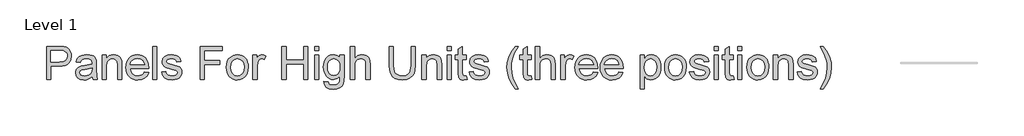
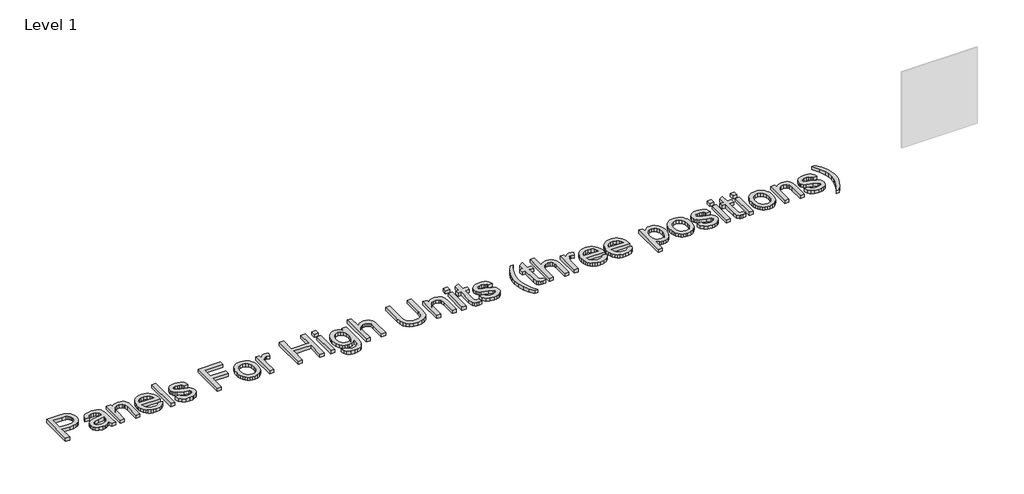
# One storey, part 4 of 5: 1 proxy.
"""IFC4 building model written with IfcOpenShell, lengths in millimetres."""

from ifc_helpers import new_model, si_unit, origin, origin_with_axes, place, context, project, spatial, polyline, outline, extrude, element, save

model = new_model("IFC4")

# Units and contexts
model_context = context("Model", 3, world=origin())
ifc_project = project(units=[si_unit("LENGTHUNIT", "METRE", prefix="MILLI")], contexts=[model_context])

# Site, building, storey
site = spatial("IfcSite", under=ifc_project)
building = spatial("IfcBuilding", under=site)
storey = spatial("IfcBuildingStorey", under=building, Name="Level 1", Elevation=0.0)

# Proxy
placement = place(None, origin())
element("IfcBuildingElementProxy", 1, Name="24\" Arial", ObjectType="24\" Arial", at=placement, inside=storey, context=model_context, shape_type="SweptSolid", body=[
    extrude(outline(polyline([(-20171.3215014, 6218.7041316), (-20171.3215014, 6468.7964393), (-20078.6359244, 6468.7964393), (-20041.2686167, 6466.4151893), (-20024.6074989, 6461.96561), (-20010.8924148, 6454.7226412), (-19999.8486047, 6444.358098), (-19991.201309, 6430.5437951), (-19985.6145302, 6414.2490234), (-19983.7522706, 6396.4430739), (-19988.781898, 6366.967473), (-20003.8707802, 6342.4070162), (-20015.9544791, 6332.7370042), (-20032.0870663, 6325.8298528), (-20052.2685416, 6321.6855619), (-20076.4989052, 6320.3041316), (-20140.0599629, 6320.3041316), (-20140.0599629, 6218.7041316), (-20171.3215014, 6218.7041316)]), holes=[polyline([(-20140.0599629, 6351.5656701), (-20074.6671744, 6351.5656701), (-20046.9469821, 6354.4353816), (-20028.6296744, 6363.0445162), (-20018.4177754, 6376.8588191), (-20015.013809, 6395.3440355), (-20017.0210807, 6409.3873047), (-20023.0428956, 6421.232497), (-20032.331297, 6430.1469201), (-20044.1383283, 6435.3978816), (-20075.3998667, 6437.5349008), (-20140.0599629, 6437.5349008), (-20140.0599629, 6351.5656701)])]), origin_with_axes(), (0.0, 0.0, 1.0), 25.4),
    extrude(outline(polyline([(-19827.4445783, 6242.1502855), (-19842.3808163, 6229.3434345), (-19857.7597225, 6220.9632662), (-19873.9323788, 6216.338146), (-19891.2498667, 6214.7964393), (-19917.3749268, 6218.5056941), (-19936.646261, 6229.6334585), (-19948.5296143, 6246.5311749), (-19952.4907321, 6267.5502855), (-19950.9948187, 6280.5097807), (-19946.5070783, 6292.2786508), (-19930.7847225, 6310.2296124), (-19908.8955398, 6320.4873047), (-19881.8469821, 6325.188747), (-19827.6277514, 6335.9349008), (-19827.4445783, 6342.8954778), (-19829.5968619, 6356.8471605), (-19836.0537129, 6365.9752855), (-19850.4938571, 6372.7526893), (-19870.6123667, 6375.0118239), (-19889.2349629, 6373.5082783), (-19902.2402514, 6368.9976412), (-19911.1088812, 6360.655634), (-19917.3215014, 6347.6579778), (-19948.5830398, 6351.5656701), (-19943.1565374, 6368.6618239), (-19935.058761, 6382.0945162), (-19923.5341215, 6392.367473), (-19907.8270302, 6399.9844201), (-19888.6167538, 6404.7011268), (-19866.582559, 6406.2733624), (-19845.4489653, 6404.8842999), (-19828.696261, 6400.7171124), (-19816.0649509, 6394.4510667), (-19807.2955398, 6386.7654297), (-19797.7094821, 6365.5478816), (-19796.1830398, 6338.1940355), (-19796.1830398, 6299.3002855), (-19794.5955398, 6244.9894682), (-19788.3676552, 6218.7041316), (-19819.6291937, 6218.7041316), (-19827.4445783, 6242.1502855)]), holes=[polyline([(-19827.4445783, 6304.6733624), (-19877.8782321, 6295.0873047), (-19904.7741456, 6290.0195162), (-19916.9551552, 6281.7767278), (-19921.2291937, 6269.7483624), (-19918.9013691, 6260.4523287), (-19911.9178956, 6252.8353816), (-19900.4314172, 6247.7523287), (-19884.5945783, 6246.0579778), (-19867.8037129, 6247.9278696), (-19852.9666937, 6253.5375451), (-19840.9383283, 6261.8032302), (-19832.5734244, 6271.6411508), (-19828.8641696, 6281.7767278), (-19827.6277514, 6295.819997), (-19827.4445783, 6304.6733624)])]), origin_with_axes(), (0.0, 0.0, 1.0), 25.4),
    extrude(outline(polyline([(-19753.1984244, 6218.7041316), (-19753.1984244, 6402.3656701), (-19721.936886, 6402.3656701), (-19721.936886, 6376.7214393), (-19711.0762489, 6389.6504057), (-19698.0327994, 6398.8853816), (-19682.8065374, 6404.4263672), (-19665.3974629, 6406.2733624), (-19635.8760687, 6400.3202374), (-19624.1071985, 6393.4359826), (-19615.7270302, 6384.6894682), (-19606.3546744, 6361.701247), (-19604.7061167, 6331.4776893), (-19604.7061167, 6218.7041316), (-19635.9676552, 6218.7041316), (-19635.9676552, 6327.2647085), (-19639.570059, 6354.9238432), (-19644.5538932, 6363.1589994), (-19652.3005879, 6369.5471605), (-19673.7623667, 6375.0118239), (-19692.0720422, 6371.9436749), (-19707.6799148, 6362.7392278), (-19718.3726432, 6344.9561749), (-19721.936886, 6316.1522085), (-19721.936886, 6218.7041316), (-19753.1984244, 6218.7041316)])), origin_with_axes(), (0.0, 0.0, 1.0), 25.4),
    extrude(outline(polyline([(-19433.1340014, 6273.4118239), (-19402.4830398, 6269.5041316), (-19413.5268499, 6246.4090595), (-19431.1496264, 6229.144997), (-19454.9544941, 6218.3835787), (-19484.5445783, 6214.7964393), (-19503.9418439, 6216.3438702), (-19521.2249869, 6220.9861629), (-19536.3940074, 6228.7233173), (-19549.4489052, 6239.5553335), (-19559.9470122, 6253.1807392), (-19567.44566, 6269.2980619), (-19571.9448487, 6287.9073017), (-19573.4445783, 6309.0084585), (-19571.9295843, 6330.8251352), (-19567.3846023, 6350.0544922), (-19559.8096324, 6366.6965295), (-19549.2046744, 6380.751247), (-19536.1841215, 6391.9171725), (-19521.3623667, 6399.8928335), (-19504.73941, 6404.6782302), (-19486.3152514, 6406.2733624), (-19468.4844971, 6404.6820463), (-19452.3595422, 6399.908098), (-19437.9403866, 6391.9515174), (-19425.2270302, 6380.8123047), (-19414.8491306, 6366.788116), (-19407.4363451, 6350.1766076), (-19402.9886738, 6330.9777795), (-19401.5061167, 6309.1916316), (-19401.6892898, 6300.7656701), (-19542.1830398, 6300.7656701), (-19536.7718018, 6277.3653095), (-19524.2015494, 6260.1623047), (-19506.0597826, 6249.5840595), (-19483.9340014, 6246.0579778), (-19467.2957802, 6247.691271), (-19453.2830398, 6252.5911508), (-19441.8957802, 6261.0629057), (-19433.1340014, 6273.4118239)]), holes=[polyline([(-19542.1830398, 6332.0272085), (-19432.7676552, 6332.0272085), (-19436.9959004, 6348.5433143), (-19445.2844821, 6360.3579778), (-19463.5102033, 6371.3483624), (-19486.4373667, 6375.0118239), (-19507.5099028, 6372.0886869), (-19524.9342417, 6363.3192758), (-19537.0465614, 6349.649985), (-19542.1830398, 6332.0272085)])]), origin_with_axes(), (0.0, 0.0, 1.0), 25.4),
    extrude(outline(polyline([(-19370.2445783, 6218.7041316), (-19370.2445783, 6468.7964393), (-19338.9830398, 6468.7964393), (-19338.9830398, 6218.7041316), (-19370.2445783, 6218.7041316)])), origin_with_axes(), (0.0, 0.0, 1.0), 25.4),
    extrude(outline(polyline([(-19303.813809, 6273.4118239), (-19272.5522706, 6277.3195162), (-19267.6218619, 6263.9478816), (-19258.0815975, 6254.1175932), (-19243.8704196, 6248.0728816), (-19224.9272706, 6246.0579778), (-19206.2130879, 6247.904973), (-19193.0551552, 6253.4459585), (-19185.2702994, 6261.4750451), (-19182.6753475, 6270.7863432), (-19185.2855639, 6278.754372), (-19193.1162129, 6284.8296124), (-19225.2936167, 6293.7440355), (-19272.3690975, 6309.0389874), (-19284.2829797, 6316.7246244), (-19292.915011, 6326.8983624), (-19298.1583403, 6338.9114633), (-19299.9061167, 6352.1151893), (-19294.288809, 6375.4086989), (-19278.9633283, 6393.2070162), (-19259.0890494, 6402.4572566), (-19232.193136, 6406.2733624), (-19211.84566, 6404.7392879), (-19194.1541937, 6400.1370643), (-19179.9277514, 6392.9169922), (-19169.9753475, 6383.529372), (-19163.3811167, 6371.2796725), (-19159.2291937, 6355.4733624), (-19190.4907321, 6351.5656701), (-19194.4365855, 6361.4035908), (-19202.2443379, 6368.8144682), (-19213.9903114, 6373.462485), (-19229.7508283, 6375.0118239), (-19247.7017898, 6373.5311749), (-19259.6690975, 6369.0892278), (-19266.4007081, 6362.6781701), (-19268.6445783, 6355.2901893), (-19264.920059, 6346.1925932), (-19253.2580398, 6339.2930739), (-19226.3315975, 6332.6377855), (-19180.4467417, 6317.9228816), (-19168.3267898, 6310.8859826), (-19159.1376071, 6301.2541316), (-19153.3447586, 6288.9967999), (-19151.413809, 6274.0834585), (-19153.6805759, 6258.6663912), (-19160.4808764, 6244.1651893), (-19171.5552153, 6231.7170523), (-19186.6440975, 6222.4591797), (-19204.8698187, 6216.7121244), (-19225.3546744, 6214.7964393), (-19256.8757081, 6218.4904297), (-19279.8791937, 6229.5724008), (-19295.2352033, 6247.9202374), (-19303.813809, 6273.4118239)])), origin_with_axes(), (0.0, 0.0, 1.0), 25.4),
    extrude(outline(polyline([(-19014.6445783, 6218.7041316), (-19014.6445783, 6468.7964393), (-18846.613809, 6468.7964393), (-18846.613809, 6437.5349008), (-18983.3830398, 6437.5349008), (-18983.3830398, 6363.288747), (-18866.1522706, 6363.288747), (-18866.1522706, 6332.0272085), (-18983.3830398, 6332.0272085), (-18983.3830398, 6218.7041316), (-19014.6445783, 6218.7041316)])), origin_with_axes(), (0.0, 0.0, 1.0), 25.4),
    extrude(outline(polyline([(-18815.3522706, 6310.5349008), (-18813.6617357, 6334.3206881), (-18808.5901312, 6354.8169922), (-18800.1374569, 6372.0238131), (-18788.3037129, 6385.9411508), (-18763.2395302, 6401.1903095), (-18733.2296744, 6406.2733624), (-18715.9827844, 6404.7259315), (-18700.3882682, 6400.0836388), (-18686.4461258, 6392.3464844), (-18674.1563571, 6381.5144682), (-18664.1257231, 6367.9539363), (-18656.9609845, 6352.031235), (-18652.6621414, 6333.7463642), (-18651.2291937, 6313.0993239), (-18653.7630879, 6281.5172326), (-18661.3647706, 6257.4757662), (-18673.8129076, 6239.4713792), (-18690.8861648, 6226.0005258), (-18711.1649509, 6217.5974609), (-18733.2296744, 6214.7964393), (-18750.7284274, 6216.338146), (-18766.4679557, 6220.9632662), (-18780.4482592, 6228.6717999), (-18792.6693379, 6239.463747), (-18802.5931209, 6253.1559345), (-18809.6815374, 6269.5651893), (-18813.9345873, 6288.6915114), (-18815.3522706, 6310.5349008)]), holes=[polyline([(-18784.0907321, 6310.5959585), (-18780.4730639, 6282.3033504), (-18769.620059, 6262.1466797), (-18753.2871264, 6250.0801533), (-18733.2296744, 6246.0579778), (-18713.263809, 6250.1030499), (-18696.9614052, 6262.2382662), (-18686.1084004, 6282.6620643), (-18682.4907321, 6311.5728816), (-18686.131297, 6339.0412109), (-18697.0529917, 6358.923122), (-18713.3782922, 6370.9896484), (-18733.2296744, 6375.0118239), (-18753.2871264, 6371.0049129), (-18769.620059, 6358.9841797), (-18780.4730639, 6338.8733023), (-18784.0907321, 6310.5959585)])]), origin_with_axes(), (0.0, 0.0, 1.0), 25.4),
    extrude(outline(polyline([(-18616.0599629, 6218.7041316), (-18616.0599629, 6402.3656701), (-18588.7061167, 6402.3656701), (-18588.7061167, 6375.194997), (-18578.6010687, 6390.9478816), (-18569.2897706, 6400.2286508), (-18549.751309, 6406.2733624), (-18534.1815975, 6403.8615835), (-18518.3676552, 6396.626247), (-18528.8085206, 6368.6007662), (-18550.7892898, 6375.0118239), (-18560.1234845, 6373.4701172), (-18568.4654917, 6368.844997), (-18579.730636, 6351.7488432), (-18584.7984244, 6315.2363432), (-18584.7984244, 6218.7041316), (-18616.0599629, 6218.7041316)])), origin_with_axes(), (0.0, 0.0, 1.0), 25.4),
    extrude(outline(polyline([(-18397.2291937, 6218.7041316), (-18397.2291937, 6468.7964393), (-18365.9676552, 6468.7964393), (-18365.9676552, 6367.1964393), (-18233.1061167, 6367.1964393), (-18233.1061167, 6468.7964393), (-18201.8445783, 6468.7964393), (-18201.8445783, 6218.7041316), (-18233.1061167, 6218.7041316), (-18233.1061167, 6335.9349008), (-18365.9676552, 6335.9349008), (-18365.9676552, 6218.7041316), (-18397.2291937, 6218.7041316)])), origin_with_axes(), (0.0, 0.0, 1.0), 25.4),
    extrude(outline(polyline([(-18151.0445783, 6437.5349008), (-18151.0445783, 6468.7964393), (-18119.7830398, 6468.7964393), (-18119.7830398, 6437.5349008), (-18151.0445783, 6437.5349008)])), origin_with_axes(), (0.0, 0.0, 1.0), 25.4),
    extrude(outline(polyline([(-18151.0445783, 6218.7041316), (-18151.0445783, 6402.3656701), (-18119.7830398, 6402.3656701), (-18119.7830398, 6218.7041316), (-18151.0445783, 6218.7041316)])), origin_with_axes(), (0.0, 0.0, 1.0), 25.4),
    extrude(outline(polyline([(-18080.7061167, 6203.0733624), (-18049.4445783, 6199.1656701), (-18045.9948187, 6189.3964393), (-18039.3090014, 6182.6800932), (-18026.1663331, 6177.4596605), (-18008.9633283, 6175.7195162), (-17990.6154917, 6177.6886268), (-17976.9690975, 6183.5959585), (-17967.5051552, 6193.0599008), (-17961.7046744, 6205.6988432), (-17959.5676552, 6242.1502855), (-17981.5789533, 6224.5656701), (-18008.413809, 6218.7041316), (-18025.5538481, 6220.4099309), (-18040.6446384, 6225.5273287), (-18053.6861798, 6234.0563251), (-18064.6784725, 6245.9969201), (-18079.6299749, 6276.0067758), (-18084.613809, 6311.4507662), (-18082.3775711, 6336.6904898), (-18075.6688571, 6359.9000451), (-18064.7242658, 6379.5682542), (-18049.7803956, 6394.1839393), (-18031.3486047, 6403.2510066), (-18009.9402514, 6406.2733624), (-17995.3207501, 6404.563747), (-17982.0521504, 6399.4349008), (-17970.1344521, 6390.8868239), (-17959.5676552, 6378.9195162), (-17959.5676552, 6402.3656701), (-17928.3061167, 6402.3656701), (-17928.3061167, 6243.7988432), (-17930.443136, 6207.1871244), (-17936.8541937, 6183.0769682), (-17947.8980038, 6167.087485), (-17963.9332802, 6154.8377855), (-17984.6089413, 6147.0529297), (-18009.5739052, 6144.4579778), (-18038.6602634, 6148.1138071), (-18061.5645302, 6159.0812951), (-18076.2565374, 6177.3909706), (-18080.7061167, 6203.0733624)]), holes=[polyline([(-18053.3522706, 6313.5877855), (-18050.0169941, 6284.9135667), (-18040.0111648, 6265.1995643), (-18024.9680759, 6253.7741436), (-18006.5210206, 6249.9656701), (-17988.2113451, 6253.751247), (-17973.091934, 6265.1079778), (-17962.9487249, 6284.5701172), (-17959.5676552, 6312.6719201), (-17963.0479437, 6339.7739033), (-17973.488809, 6359.2894682), (-17988.8295542, 6371.081235), (-18007.0094821, 6375.0118239), (-18024.8612249, 6371.1422927), (-18039.8279917, 6359.5336989), (-18049.9712009, 6340.3081581), (-18053.3522706, 6313.5877855)])]), origin_with_axes(), (0.0, 0.0, 1.0), 25.4),
    extrude(outline(polyline([(-17881.413809, 6218.7041316), (-17881.413809, 6468.7964393), (-17850.1522706, 6468.7964393), (-17850.1522706, 6376.8435547), (-17838.6696083, 6389.7190956), (-17825.7749869, 6398.9159105), (-17811.4684064, 6404.4339994), (-17795.7498667, 6406.2733624), (-17776.8677754, 6404.2660908), (-17760.6416937, 6398.2442758), (-17747.8653715, 6388.6811148), (-17739.332559, 6376.0498047), (-17734.5242658, 6358.6941557), (-17732.9215014, 6334.9579778), (-17732.9215014, 6218.7041316), (-17764.1830398, 6218.7041316), (-17764.1830398, 6331.7219201), (-17766.6711408, 6351.2909105), (-17774.1354437, 6364.6930739), (-17786.163809, 6372.4321364), (-17802.3440975, 6375.0118239), (-17815.5554557, 6373.2716797), (-17827.9577994, 6368.051247), (-17838.2307562, 6359.8542518), (-17845.0539533, 6349.1844201), (-17848.8776913, 6335.003771), (-17850.1522706, 6316.2743239), (-17850.1522706, 6218.7041316), (-17881.413809, 6218.7041316)])), origin_with_axes(), (0.0, 0.0, 1.0), 25.4),
    extrude(outline(polyline([(-17424.213809, 6468.7964393), (-17392.9522706, 6468.7964393), (-17392.9522706, 6324.5171124), (-17395.0740254, 6290.7293119), (-17401.4392898, 6264.7111028), (-17413.3302754, 6244.6383864), (-17432.0291937, 6228.6870643), (-17457.5818379, 6218.2690956), (-17490.0340014, 6214.7964393), (-17521.7763691, 6217.8187951), (-17547.1534725, 6226.8858624), (-17566.1729437, 6241.6847206), (-17578.8424148, 6261.9024489), (-17585.9632682, 6289.0196965), (-17588.336886, 6324.5171124), (-17588.336886, 6468.7964393), (-17557.0753475, 6468.7964393), (-17557.0753475, 6325.6161508), (-17555.5336408, 6297.5219802), (-17550.9085206, 6277.960622), (-17542.5283523, 6264.4134465), (-17529.7215014, 6254.3618239), (-17513.0222225, 6248.1339393), (-17492.9647706, 6246.0579778), (-17461.1689773, 6250.1641076), (-17440.0277514, 6262.482497), (-17433.1091516, 6272.5875451), (-17428.1672946, 6286.4781701), (-17424.213809, 6325.6161508), (-17424.213809, 6468.7964393)])), origin_with_axes(), (0.0, 0.0, 1.0), 25.4),
    extrude(outline(polyline([(-17342.1522706, 6218.7041316), (-17342.1522706, 6402.3656701), (-17310.8907321, 6402.3656701), (-17310.8907321, 6376.7214393), (-17300.0300951, 6389.6504057), (-17286.9866456, 6398.8853816), (-17271.7603836, 6404.4263672), (-17254.351309, 6406.2733624), (-17224.8299148, 6400.3202374), (-17213.0610446, 6393.4359826), (-17204.6808764, 6384.6894682), (-17195.3085206, 6361.701247), (-17193.6599629, 6331.4776893), (-17193.6599629, 6218.7041316), (-17224.9215014, 6218.7041316), (-17224.9215014, 6327.2647085), (-17228.5239052, 6354.9238432), (-17233.5077393, 6363.1589994), (-17241.254434, 6369.5471605), (-17262.7162129, 6375.0118239), (-17281.0258884, 6371.9436749), (-17296.633761, 6362.7392278), (-17307.3264893, 6344.9561749), (-17310.8907321, 6316.1522085), (-17310.8907321, 6218.7041316), (-17342.1522706, 6218.7041316)])), origin_with_axes(), (0.0, 0.0, 1.0), 25.4),
    extrude(outline(polyline([(-17150.6753475, 6218.7041316), (-17150.6753475, 6402.3656701), (-17119.413809, 6402.3656701), (-17119.413809, 6218.7041316), (-17150.6753475, 6218.7041316)])), origin_with_axes(), (0.0, 0.0, 1.0), 25.4),
    extrude(outline(polyline([(-17150.6753475, 6437.5349008), (-17150.6753475, 6468.7964393), (-17119.413809, 6468.7964393), (-17119.413809, 6437.5349008), (-17150.6753475, 6437.5349008)])), origin_with_axes(), (0.0, 0.0, 1.0), 25.4),
    extrude(outline(polyline([(-17006.0907321, 6244.7757662), (-17002.1830398, 6217.7882662), (-17025.568136, 6214.7964393), (-17040.5730639, 6216.0939153), (-17051.761886, 6219.9863432), (-17064.8282321, 6233.6022085), (-17068.613809, 6269.0767278), (-17068.613809, 6371.1041316), (-17092.0599629, 6371.1041316), (-17092.0599629, 6402.3656701), (-17068.613809, 6402.3656701), (-17068.613809, 6446.9988432), (-17037.3522706, 6465.3772085), (-17037.3522706, 6402.3656701), (-17006.0907321, 6402.3656701), (-17006.0907321, 6371.1041316), (-17037.3522706, 6371.1041316), (-17037.3522706, 6269.9925932), (-17035.7037129, 6253.8733624), (-17030.3611648, 6248.1644682), (-17019.7065975, 6246.0579778), (-17006.0907321, 6244.7757662)])), origin_with_axes(), (0.0, 0.0, 1.0), 25.4),
    extrude(outline(polyline([(-16986.5522706, 6273.4118239), (-16955.2907321, 6277.3195162), (-16950.3603235, 6263.9478816), (-16940.820059, 6254.1175932), (-16926.6088812, 6248.0728816), (-16907.6657321, 6246.0579778), (-16888.9515494, 6247.904973), (-16875.7936167, 6253.4459585), (-16868.008761, 6261.4750451), (-16865.413809, 6270.7863432), (-16868.0240254, 6278.754372), (-16875.8546744, 6284.8296124), (-16908.0320783, 6293.7440355), (-16955.107559, 6309.0389874), (-16967.0214413, 6316.7246244), (-16975.6534725, 6326.8983624), (-16980.8968018, 6338.9114633), (-16982.6445783, 6352.1151893), (-16977.0272706, 6375.4086989), (-16961.7017898, 6393.2070162), (-16941.827511, 6402.4572566), (-16914.9315975, 6406.2733624), (-16894.5841215, 6404.7392879), (-16876.8926552, 6400.1370643), (-16862.6662129, 6392.9169922), (-16852.713809, 6383.529372), (-16846.1195783, 6371.2796725), (-16841.9676552, 6355.4733624), (-16873.2291937, 6351.5656701), (-16877.175047, 6361.4035908), (-16884.9827994, 6368.8144682), (-16896.728773, 6373.462485), (-16912.4892898, 6375.0118239), (-16930.4402514, 6373.5311749), (-16942.407559, 6369.0892278), (-16949.1391696, 6362.6781701), (-16951.3830398, 6355.2901893), (-16947.6585206, 6346.1925932), (-16935.9965014, 6339.2930739), (-16909.070059, 6332.6377855), (-16863.1852033, 6317.9228816), (-16851.0652514, 6310.8859826), (-16841.8760687, 6301.2541316), (-16836.0832201, 6288.9967999), (-16834.1522706, 6274.0834585), (-16836.4190374, 6258.6663912), (-16843.2193379, 6244.1651893), (-16854.2936768, 6231.7170523), (-16869.382559, 6222.4591797), (-16887.6082802, 6216.7121244), (-16908.093136, 6214.7964393), (-16939.6141696, 6218.4904297), (-16962.6176552, 6229.5724008), (-16977.9736648, 6247.9202374), (-16986.5522706, 6273.4118239)])), origin_with_axes(), (0.0, 0.0, 1.0), 25.4),
    extrude(outline(polyline([(-16638.7676552, 6148.3656701), (-16662.9922946, 6182.3595403), (-16683.1565975, 6221.6959585), (-16696.7571985, 6264.466872), (-16701.2907321, 6308.7642278), (-16697.9020302, 6347.6121845), (-16687.7359244, 6384.7810547), (-16667.5563571, 6426.8803335), (-16638.7676552, 6468.7964393), (-16615.3215014, 6468.7964393), (-16644.568136, 6419.2786508), (-16662.1527514, 6371.2873047), (-16668.0600831, 6340.0105018), (-16670.0291937, 6308.5810547), (-16666.6099629, 6268.5043119), (-16656.3522706, 6228.4428335), (-16639.2561167, 6188.3966196), (-16615.3215014, 6148.3656701), (-16638.7676552, 6148.3656701)])), origin_with_axes(), (0.0, 0.0, 1.0), 25.4),
    extrude(outline(polyline([(-16517.6291937, 6244.7757662), (-16513.7215014, 6217.7882662), (-16537.1065975, 6214.7964393), (-16552.1115254, 6216.0939153), (-16563.3003475, 6219.9863432), (-16576.3666937, 6233.6022085), (-16580.1522706, 6269.0767278), (-16580.1522706, 6371.1041316), (-16603.5984244, 6371.1041316), (-16603.5984244, 6402.3656701), (-16580.1522706, 6402.3656701), (-16580.1522706, 6446.9988432), (-16548.8907321, 6465.3772085), (-16548.8907321, 6402.3656701), (-16517.6291937, 6402.3656701), (-16517.6291937, 6371.1041316), (-16548.8907321, 6371.1041316), (-16548.8907321, 6269.9925932), (-16547.2421744, 6253.8733624), (-16541.8996264, 6248.1644682), (-16531.245059, 6246.0579778), (-16517.6291937, 6244.7757662)])), origin_with_axes(), (0.0, 0.0, 1.0), 25.4),
    extrude(outline(polyline([(-16486.3676552, 6218.7041316), (-16486.3676552, 6468.7964393), (-16455.1061167, 6468.7964393), (-16455.1061167, 6376.8435547), (-16443.6234545, 6389.7190956), (-16430.7288331, 6398.9159105), (-16416.4222526, 6404.4339994), (-16400.7037129, 6406.2733624), (-16381.8216215, 6404.2660908), (-16365.5955398, 6398.2442758), (-16352.8192177, 6388.6811148), (-16344.2864052, 6376.0498047), (-16339.4781119, 6358.6941557), (-16337.8753475, 6334.9579778), (-16337.8753475, 6218.7041316), (-16369.136886, 6218.7041316), (-16369.136886, 6331.7219201), (-16371.6249869, 6351.2909105), (-16379.0892898, 6364.6930739), (-16391.1176552, 6372.4321364), (-16407.2979437, 6375.0118239), (-16420.5093018, 6373.2716797), (-16432.9116456, 6368.051247), (-16443.1846023, 6359.8542518), (-16450.0077994, 6349.1844201), (-16453.8315374, 6335.003771), (-16455.1061167, 6316.2743239), (-16455.1061167, 6218.7041316), (-16486.3676552, 6218.7041316)])), origin_with_axes(), (0.0, 0.0, 1.0), 25.4),
    extrude(outline(polyline([(-16294.8907321, 6218.7041316), (-16294.8907321, 6402.3656701), (-16267.536886, 6402.3656701), (-16267.536886, 6375.194997), (-16257.4318379, 6390.9478816), (-16248.1205398, 6400.2286508), (-16228.5820783, 6406.2733624), (-16213.0123667, 6403.8615835), (-16197.1984244, 6396.626247), (-16207.6392898, 6368.6007662), (-16229.620059, 6375.0118239), (-16238.9542538, 6373.4701172), (-16247.296261, 6368.844997), (-16258.5614052, 6351.7488432), (-16263.6291937, 6315.2363432), (-16263.6291937, 6218.7041316), (-16294.8907321, 6218.7041316)])), origin_with_axes(), (0.0, 0.0, 1.0), 25.4),
    extrude(outline(polyline([(-16049.0724629, 6273.4118239), (-16018.4215014, 6269.5041316), (-16029.4653114, 6246.4090595), (-16047.0880879, 6229.144997), (-16070.8929557, 6218.3835787), (-16100.4830398, 6214.7964393), (-16119.8803054, 6216.3438702), (-16137.1634485, 6220.9861629), (-16152.3324689, 6228.7233173), (-16165.3873667, 6239.5553335), (-16175.8854737, 6253.1807392), (-16183.3841215, 6269.2980619), (-16187.8833102, 6287.9073017), (-16189.3830398, 6309.0084585), (-16187.8680458, 6330.8251352), (-16183.3230639, 6350.0544922), (-16175.7480939, 6366.6965295), (-16165.143136, 6380.751247), (-16152.1225831, 6391.9171725), (-16137.3008283, 6399.8928335), (-16120.6778715, 6404.6782302), (-16102.2537129, 6406.2733624), (-16084.4229587, 6404.6820463), (-16068.2980038, 6399.908098), (-16053.8788481, 6391.9515174), (-16041.1654917, 6380.8123047), (-16030.7875921, 6366.788116), (-16023.3748066, 6350.1766076), (-16018.9271354, 6330.9777795), (-16017.4445783, 6309.1916316), (-16017.6277514, 6300.7656701), (-16158.1215014, 6300.7656701), (-16152.7102634, 6277.3653095), (-16140.140011, 6260.1623047), (-16121.9982441, 6249.5840595), (-16099.8724629, 6246.0579778), (-16083.2342417, 6247.691271), (-16069.2215014, 6252.5911508), (-16057.8342417, 6261.0629057), (-16049.0724629, 6273.4118239)]), holes=[polyline([(-16158.1215014, 6332.0272085), (-16048.7061167, 6332.0272085), (-16052.9343619, 6348.5433143), (-16061.2229437, 6360.3579778), (-16079.4486648, 6371.3483624), (-16102.3758283, 6375.0118239), (-16123.4483643, 6372.0886869), (-16140.8727033, 6363.3192758), (-16152.985023, 6349.649985), (-16158.1215014, 6332.0272085)])]), origin_with_axes(), (0.0, 0.0, 1.0), 25.4),
    extrude(outline(polyline([(-15857.5955398, 6273.4118239), (-15826.9445783, 6269.5041316), (-15837.9883884, 6246.4090595), (-15855.6111648, 6229.144997), (-15879.4160326, 6218.3835787), (-15909.0061167, 6214.7964393), (-15928.4033824, 6216.3438702), (-15945.6865254, 6220.9861629), (-15960.8555458, 6228.7233173), (-15973.9104437, 6239.5553335), (-15984.4085506, 6253.1807392), (-15991.9071985, 6269.2980619), (-15996.4063872, 6287.9073017), (-15997.9061167, 6309.0084585), (-15996.3911227, 6330.8251352), (-15991.8461408, 6350.0544922), (-15984.2711708, 6366.6965295), (-15973.6662129, 6380.751247), (-15960.64566, 6391.9171725), (-15945.8239052, 6399.8928335), (-15929.2009485, 6404.6782302), (-15910.7767898, 6406.2733624), (-15892.9460356, 6404.6820463), (-15876.8210807, 6399.908098), (-15862.401925, 6391.9515174), (-15849.6885687, 6380.8123047), (-15839.310669, 6366.788116), (-15831.8978836, 6350.1766076), (-15827.4502123, 6330.9777795), (-15825.9676552, 6309.1916316), (-15826.1508283, 6300.7656701), (-15966.6445783, 6300.7656701), (-15961.2333403, 6277.3653095), (-15948.6630879, 6260.1623047), (-15930.5213211, 6249.5840595), (-15908.3955398, 6246.0579778), (-15891.7573187, 6247.691271), (-15877.7445783, 6252.5911508), (-15866.3573187, 6261.0629057), (-15857.5955398, 6273.4118239)]), holes=[polyline([(-15966.6445783, 6332.0272085), (-15857.2291937, 6332.0272085), (-15861.4574389, 6348.5433143), (-15869.7460206, 6360.3579778), (-15887.9717417, 6371.3483624), (-15910.8989052, 6375.0118239), (-15931.9714413, 6372.0886869), (-15949.3957802, 6363.3192758), (-15961.5080999, 6349.649985), (-15966.6445783, 6332.0272085)])]), origin_with_axes(), (0.0, 0.0, 1.0), 25.4),
    extrude(outline(polyline([(-15697.013809, 6148.3656701), (-15697.013809, 6402.3656701), (-15665.7522706, 6402.3656701), (-15665.7522706, 6371.7147085), (-15655.555636, 6386.8341196), (-15644.1378475, 6397.6336989), (-15630.8272706, 6404.1134465), (-15614.9522706, 6406.2733624), (-15593.8110446, 6403.2510066), (-15575.3258283, 6394.1839393), (-15560.2751071, 6379.6216797), (-15549.4373667, 6360.113747), (-15542.8889292, 6337.0797326), (-15540.7061167, 6311.9392278), (-15543.1713211, 6285.2035908), (-15550.566934, 6261.291872), (-15562.6563571, 6241.4175932), (-15579.2029917, 6226.7942758), (-15598.4743259, 6217.7958984), (-15618.7378475, 6214.7964393), (-15633.1093018, 6216.8037109), (-15645.9390494, 6222.8255258), (-15665.7522706, 6243.1272085), (-15665.7522706, 6148.3656701), (-15697.013809, 6148.3656701)]), holes=[polyline([(-15665.7522706, 6309.0695162), (-15662.3712009, 6281.0440355), (-15652.2279917, 6261.4445162), (-15637.2612249, 6249.9046124), (-15619.4094821, 6246.0579778), (-15601.2677153, 6250.0419922), (-15585.9193379, 6261.9940355), (-15575.4555759, 6282.3109826), (-15571.9676552, 6311.3897085), (-15575.3716215, 6339.2625451), (-15585.5835206, 6359.1368239), (-15600.5273908, 6371.0430739), (-15618.1272706, 6375.0118239), (-15635.7958403, 6370.7912109), (-15651.3121264, 6358.129372), (-15662.1422345, 6337.4231821), (-15665.7522706, 6309.0695162)])]), origin_with_axes(), (0.0, 0.0, 1.0), 25.4),
    extrude(outline(polyline([(-15513.3522706, 6310.5349008), (-15511.6617357, 6334.3206881), (-15506.5901312, 6354.8169922), (-15498.1374569, 6372.0238131), (-15486.3037129, 6385.9411508), (-15461.2395302, 6401.1903095), (-15431.2296744, 6406.2733624), (-15413.9827844, 6404.7259315), (-15398.3882682, 6400.0836388), (-15384.4461258, 6392.3464844), (-15372.1563571, 6381.5144682), (-15362.1257231, 6367.9539363), (-15354.9609845, 6352.031235), (-15350.6621414, 6333.7463642), (-15349.2291937, 6313.0993239), (-15351.7630879, 6281.5172326), (-15359.3647706, 6257.4757662), (-15371.8129076, 6239.4713792), (-15388.8861648, 6226.0005258), (-15409.1649509, 6217.5974609), (-15431.2296744, 6214.7964393), (-15448.7284274, 6216.338146), (-15464.4679557, 6220.9632662), (-15478.4482592, 6228.6717999), (-15490.6693379, 6239.463747), (-15500.5931209, 6253.1559345), (-15507.6815374, 6269.5651893), (-15511.9345873, 6288.6915114), (-15513.3522706, 6310.5349008)]), holes=[polyline([(-15482.0907321, 6310.5959585), (-15478.4730639, 6282.3033504), (-15467.620059, 6262.1466797), (-15451.2871264, 6250.0801533), (-15431.2296744, 6246.0579778), (-15411.263809, 6250.1030499), (-15394.9614052, 6262.2382662), (-15384.1084004, 6282.6620643), (-15380.4907321, 6311.5728816), (-15384.131297, 6339.0412109), (-15395.0529917, 6358.923122), (-15411.3782922, 6370.9896484), (-15431.2296744, 6375.0118239), (-15451.2871264, 6371.0049129), (-15467.620059, 6358.9841797), (-15478.4730639, 6338.8733023), (-15482.0907321, 6310.5959585)])]), origin_with_axes(), (0.0, 0.0, 1.0), 25.4),
    extrude(outline(polyline([(-15325.7830398, 6273.4118239), (-15294.5215014, 6277.3195162), (-15289.5910927, 6263.9478816), (-15280.0508283, 6254.1175932), (-15265.8396504, 6248.0728816), (-15246.8965014, 6246.0579778), (-15228.1823187, 6247.904973), (-15215.024386, 6253.4459585), (-15207.2395302, 6261.4750451), (-15204.6445783, 6270.7863432), (-15207.2547946, 6278.754372), (-15215.0854437, 6284.8296124), (-15247.2628475, 6293.7440355), (-15294.3383283, 6309.0389874), (-15306.2522105, 6316.7246244), (-15314.8842417, 6326.8983624), (-15320.1275711, 6338.9114633), (-15321.8753475, 6352.1151893), (-15316.2580398, 6375.4086989), (-15300.932559, 6393.2070162), (-15281.0582802, 6402.4572566), (-15254.1623667, 6406.2733624), (-15233.8148908, 6404.7392879), (-15216.1234244, 6400.1370643), (-15201.8969821, 6392.9169922), (-15191.9445783, 6383.529372), (-15185.3503475, 6371.2796725), (-15181.1984244, 6355.4733624), (-15212.4599629, 6351.5656701), (-15216.4058163, 6361.4035908), (-15224.2135687, 6368.8144682), (-15235.9595422, 6373.462485), (-15251.720059, 6375.0118239), (-15269.6710206, 6373.5311749), (-15281.6383283, 6369.0892278), (-15288.3699389, 6362.6781701), (-15290.613809, 6355.2901893), (-15286.8892898, 6346.1925932), (-15275.2272706, 6339.2930739), (-15248.3008283, 6332.6377855), (-15202.4159725, 6317.9228816), (-15190.2960206, 6310.8859826), (-15181.1068379, 6301.2541316), (-15175.3139893, 6288.9967999), (-15173.3830398, 6274.0834585), (-15175.6498066, 6258.6663912), (-15182.4501071, 6244.1651893), (-15193.5244461, 6231.7170523), (-15208.6133283, 6222.4591797), (-15226.8390494, 6216.7121244), (-15247.3239052, 6214.7964393), (-15278.8449389, 6218.4904297), (-15301.8484244, 6229.5724008), (-15317.204434, 6247.9202374), (-15325.7830398, 6273.4118239)])), origin_with_axes(), (0.0, 0.0, 1.0), 25.4),
    extrude(outline(polyline([(-15138.213809, 6218.7041316), (-15138.213809, 6402.3656701), (-15106.9522706, 6402.3656701), (-15106.9522706, 6218.7041316), (-15138.213809, 6218.7041316)])), origin_with_axes(), (0.0, 0.0, 1.0), 25.4),
    extrude(outline(polyline([(-15138.213809, 6437.5349008), (-15138.213809, 6468.7964393), (-15106.9522706, 6468.7964393), (-15106.9522706, 6437.5349008), (-15138.213809, 6437.5349008)])), origin_with_axes(), (0.0, 0.0, 1.0), 25.4),
    extrude(outline(polyline([(-14993.6291937, 6244.7757662), (-14989.7215014, 6217.7882662), (-15013.1065975, 6214.7964393), (-15028.1115254, 6216.0939153), (-15039.3003475, 6219.9863432), (-15052.3666937, 6233.6022085), (-15056.1522706, 6269.0767278), (-15056.1522706, 6371.1041316), (-15079.5984244, 6371.1041316), (-15079.5984244, 6402.3656701), (-15056.1522706, 6402.3656701), (-15056.1522706, 6446.9988432), (-15024.8907321, 6465.3772085), (-15024.8907321, 6402.3656701), (-14993.6291937, 6402.3656701), (-14993.6291937, 6371.1041316), (-15024.8907321, 6371.1041316), (-15024.8907321, 6269.9925932), (-15023.2421744, 6253.8733624), (-15017.8996264, 6248.1644682), (-15007.245059, 6246.0579778), (-14993.6291937, 6244.7757662)])), origin_with_axes(), (0.0, 0.0, 1.0), 25.4),
    extrude(outline(polyline([(-14962.3676552, 6218.7041316), (-14962.3676552, 6402.3656701), (-14931.1061167, 6402.3656701), (-14931.1061167, 6218.7041316), (-14962.3676552, 6218.7041316)])), origin_with_axes(), (0.0, 0.0, 1.0), 25.4),
    extrude(outline(polyline([(-14962.3676552, 6437.5349008), (-14962.3676552, 6468.7964393), (-14931.1061167, 6468.7964393), (-14931.1061167, 6437.5349008), (-14962.3676552, 6437.5349008)])), origin_with_axes(), (0.0, 0.0, 1.0), 25.4),
    extrude(outline(polyline([(-14892.0291937, 6310.5349008), (-14890.3386588, 6334.3206881), (-14885.2670542, 6354.8169922), (-14876.81438, 6372.0238131), (-14864.980636, 6385.9411508), (-14839.9164533, 6401.1903095), (-14809.9065975, 6406.2733624), (-14792.6597075, 6404.7259315), (-14777.0651913, 6400.0836388), (-14763.1230488, 6392.3464844), (-14750.8332802, 6381.5144682), (-14740.8026462, 6367.9539363), (-14733.6379076, 6352.031235), (-14729.3390645, 6333.7463642), (-14727.9061167, 6313.0993239), (-14730.440011, 6281.5172326), (-14738.0416937, 6257.4757662), (-14750.4898307, 6239.4713792), (-14767.5630879, 6226.0005258), (-14787.8418739, 6217.5974609), (-14809.9065975, 6214.7964393), (-14827.4053505, 6216.338146), (-14843.1448788, 6220.9632662), (-14857.1251822, 6228.6717999), (-14869.346261, 6239.463747), (-14879.270044, 6253.1559345), (-14886.3584605, 6269.5651893), (-14890.6115104, 6288.6915114), (-14892.0291937, 6310.5349008)]), holes=[polyline([(-14860.7676552, 6310.5959585), (-14857.1499869, 6282.3033504), (-14846.2969821, 6262.1466797), (-14829.9640494, 6250.0801533), (-14809.9065975, 6246.0579778), (-14789.9407321, 6250.1030499), (-14773.6383283, 6262.2382662), (-14762.7853235, 6282.6620643), (-14759.1676552, 6311.5728816), (-14762.8082201, 6339.0412109), (-14773.7299148, 6358.923122), (-14790.0552153, 6370.9896484), (-14809.9065975, 6375.0118239), (-14829.9640494, 6371.0049129), (-14846.2969821, 6358.9841797), (-14857.1499869, 6338.8733023), (-14860.7676552, 6310.5959585)])]), origin_with_axes(), (0.0, 0.0, 1.0), 25.4),
    extrude(outline(polyline([(-14692.736886, 6218.7041316), (-14692.736886, 6402.3656701), (-14661.4753475, 6402.3656701), (-14661.4753475, 6376.7214393), (-14650.6147105, 6389.6504057), (-14637.571261, 6398.8853816), (-14622.3449989, 6404.4263672), (-14604.9359244, 6406.2733624), (-14575.4145302, 6400.3202374), (-14563.64566, 6393.4359826), (-14555.2654917, 6384.6894682), (-14545.893136, 6361.701247), (-14544.2445783, 6331.4776893), (-14544.2445783, 6218.7041316), (-14575.5061167, 6218.7041316), (-14575.5061167, 6327.2647085), (-14579.1085206, 6354.9238432), (-14584.0923547, 6363.1589994), (-14591.8390494, 6369.5471605), (-14613.3008283, 6375.0118239), (-14631.6105038, 6371.9436749), (-14647.2183764, 6362.7392278), (-14657.9111047, 6344.9561749), (-14661.4753475, 6316.1522085), (-14661.4753475, 6218.7041316), (-14692.736886, 6218.7041316)])), origin_with_axes(), (0.0, 0.0, 1.0), 25.4),
    extrude(outline(polyline([(-14512.9830398, 6273.4118239), (-14481.7215014, 6277.3195162), (-14476.7910927, 6263.9478816), (-14467.2508283, 6254.1175932), (-14453.0396504, 6248.0728816), (-14434.0965014, 6246.0579778), (-14415.3823187, 6247.904973), (-14402.224386, 6253.4459585), (-14394.4395302, 6261.4750451), (-14391.8445783, 6270.7863432), (-14394.4547946, 6278.754372), (-14402.2854437, 6284.8296124), (-14434.4628475, 6293.7440355), (-14481.5383283, 6309.0389874), (-14493.4522105, 6316.7246244), (-14502.0842417, 6326.8983624), (-14507.3275711, 6338.9114633), (-14509.0753475, 6352.1151893), (-14503.4580398, 6375.4086989), (-14488.132559, 6393.2070162), (-14468.2582802, 6402.4572566), (-14441.3623667, 6406.2733624), (-14421.0148908, 6404.7392879), (-14403.3234244, 6400.1370643), (-14389.0969821, 6392.9169922), (-14379.1445783, 6383.529372), (-14372.5503475, 6371.2796725), (-14368.3984244, 6355.4733624), (-14399.6599629, 6351.5656701), (-14403.6058163, 6361.4035908), (-14411.4135687, 6368.8144682), (-14423.1595422, 6373.462485), (-14438.920059, 6375.0118239), (-14456.8710206, 6373.5311749), (-14468.8383283, 6369.0892278), (-14475.5699389, 6362.6781701), (-14477.813809, 6355.2901893), (-14474.0892898, 6346.1925932), (-14462.4272706, 6339.2930739), (-14435.5008283, 6332.6377855), (-14389.6159725, 6317.9228816), (-14377.4960206, 6310.8859826), (-14368.3068379, 6301.2541316), (-14362.5139893, 6288.9967999), (-14360.5830398, 6274.0834585), (-14362.8498066, 6258.6663912), (-14369.6501071, 6244.1651893), (-14380.7244461, 6231.7170523), (-14395.8133283, 6222.4591797), (-14414.0390494, 6216.7121244), (-14434.5239052, 6214.7964393), (-14466.0449389, 6218.4904297), (-14489.0484244, 6229.5724008), (-14504.404434, 6247.9202374), (-14512.9830398, 6273.4118239)])), origin_with_axes(), (0.0, 0.0, 1.0), 25.4),
    extrude(outline(polyline([(-14317.5984244, 6148.3656701), (-14341.0445783, 6148.3656701), (-14317.1099629, 6188.3966196), (-14300.013809, 6228.4428335), (-14289.7561167, 6268.5043119), (-14286.336886, 6308.5810547), (-14288.3059965, 6339.7815355), (-14294.2133283, 6370.7377855), (-14311.6147706, 6418.7901893), (-14341.0445783, 6468.7964393), (-14317.5984244, 6468.7964393), (-14288.8097225, 6426.8803335), (-14268.6301552, 6384.7810547), (-14258.4640494, 6347.6121845), (-14255.0753475, 6308.7642278), (-14259.6317778, 6264.466872), (-14273.3010687, 6221.6959585), (-14293.4882682, 6182.3595403), (-14317.5984244, 6148.3656701)])), origin_with_axes(), (0.0, 0.0, 1.0), 25.4),
])

save(model, "model.ifc")
